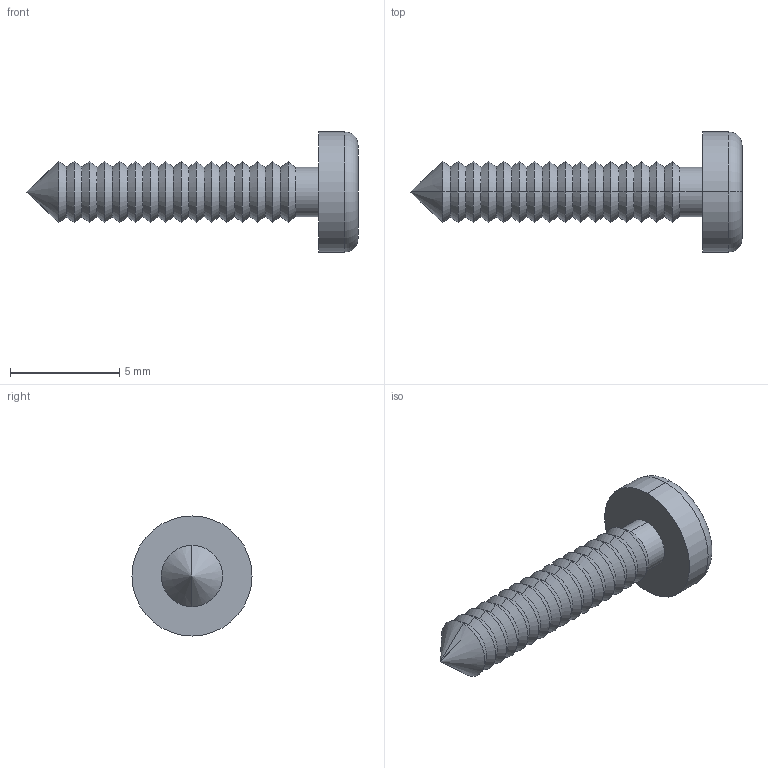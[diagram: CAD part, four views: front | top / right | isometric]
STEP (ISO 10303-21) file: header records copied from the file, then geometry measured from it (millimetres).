
FILE_DESCRIPTION (( 'STEP AP214' ), '1' );
FILE_NAME ('Cargol 2,9 x13 PP89.STEP', '2017-10-10T09:13:41', ( 'aaa' ), ( '' ), 'SwSTEP 2.0', 'SolidWorks 2013', '' );
FILE_SCHEMA (( 'AUTOMOTIVE_DESIGN' ));
Length unit declared in the file: millimetre
Products named in the file (1): Cargol 2,9 x13 PP89
Bounding box: 15.2 x 5.5 x 5.5 mm (x, y, z)
Volume: 102.4 mm3; surface area: 195.6 mm2
Topology: 1 solids, 1 shells, 85 faces, 180 edges, 97 vertices
Faces by surface type: cone 64, plane 15, cylinder 4, torus 2
Entity records: 2240 total; most frequent: DIRECTION 424, CARTESIAN_POINT 361, ORIENTED_EDGE 356, EDGE_CURVE 178, AXIS2_PLACEMENT_3D 160, LINE 104, VECTOR 104, VERTEX_POINT 97
